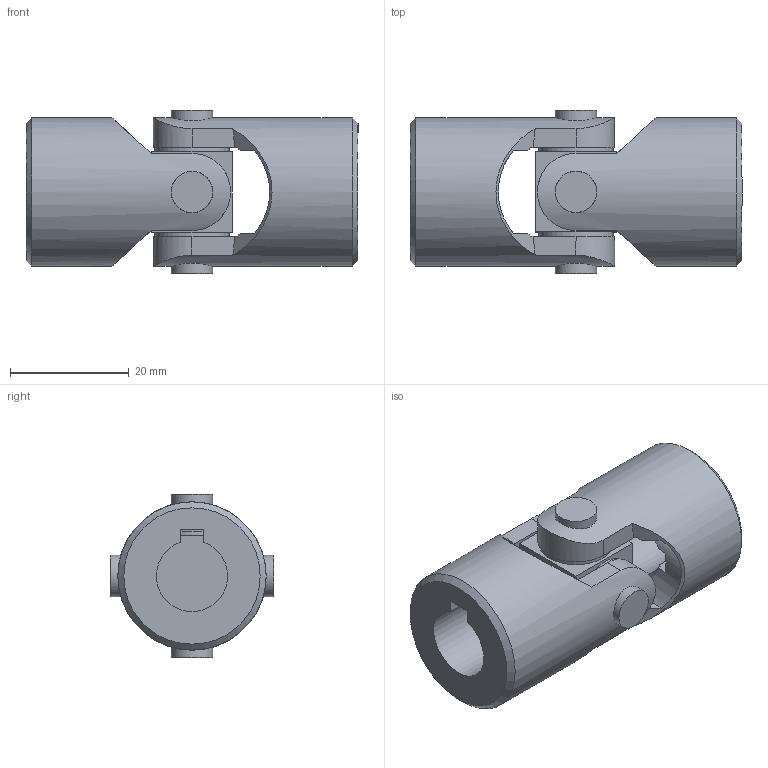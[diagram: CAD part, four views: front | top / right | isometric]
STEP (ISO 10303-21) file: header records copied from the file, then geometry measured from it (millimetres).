
FILE_DESCRIPTION(/* description */ ('EXTENSIBLE TRANSIMISSIONS Series G DIN 808 -2-'),/* implementation_level */ '2;1');
FILE_NAME(/* name */ '\\SRV2016\societa\Stefano\Disegni 3D\0Catalogo 3D\13Singoli X\Ø25_04X_SX0S122C.stp',/* time_stamp */ '2023-05-12T15:52:47+02:00',/* author */ ('acquisti'),/* organization */ ('MARIOFERRI'),/* preprocessor_version */ 'ST-DEVELOPER v15.6',/* originating_system */ 'Autodesk Inventor 2015',/* authorisation */ '');
FILE_SCHEMA (('AUTOMOTIVE_DESIGN { 1 0 10303 214 3 1 1 }'));
Length unit declared in the file: millimetre
Products named in the file (3): 04X SFE; 04X MOC; Ø25_04X_SX0S1200
Assembly tree (3 placements, depth 2):
  Ø25_04X_SX0S1200
    04X SFE
    04X MOC  x2
Bounding box: 56 x 27.5 x 27.5 mm (x, y, z)
Volume: 18830.7 mm3; surface area: 8766.2 mm2
Topology: 3 solids, 3 shells, 70 faces, 182 edges, 124 vertices
Faces by surface type: plane 38, cylinder 18, cone 12, torus 2
Full cylindrical faces by diameter (mm): 7 x4, 12.5 x4, 25 x2
Entity records: 1431 total; most frequent: CARTESIAN_POINT 452, DIRECTION 187, ORIENTED_EDGE 182, EDGE_CURVE 91, AXIS2_PLACEMENT_3D 77, VERTEX_POINT 67, EDGE_LOOP 58, FACE_OUTER_BOUND 42
